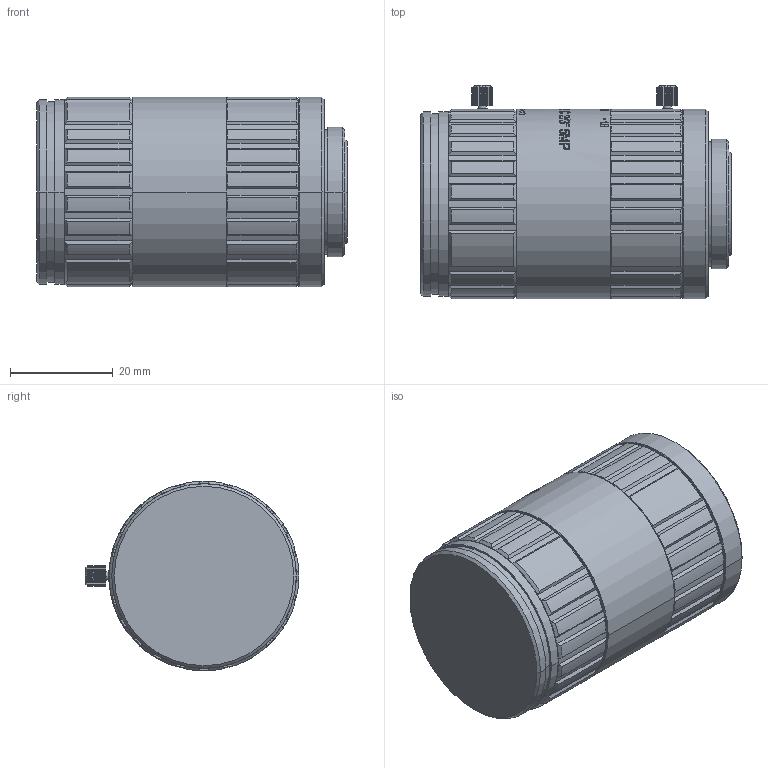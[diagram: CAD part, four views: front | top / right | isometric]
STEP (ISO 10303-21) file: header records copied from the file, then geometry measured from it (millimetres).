
FILE_DESCRIPTION((''),'2;1');
FILE_NAME('OPT-C1618-5M-V3_0','2019-09-12T10:41:28',('dcsongs'),(''),'CREO PARAMETRIC BY PTC INC, 2018400','CREO PARAMETRIC BY PTC INC, 2018400','');
FILE_SCHEMA(('AUTOMOTIVE_DESIGN { 1 0 10303 214 1 1 1 1 }'));
Products named in the file (1): OPT-C1618-5M-V3_0
Bounding box: 60.6 x 41.7 x 37 mm (x, y, z)
Volume: 61536.4 mm3; surface area: 10035.9 mm2
Topology: 1 solids, 4 shells, 1238 faces, 3356 edges, 2191 vertices
Faces by surface type: bspline 443, plane 379, cylinder 275, cone 106, extrusion 35
Entity records: 50847 total; most frequent: CARTESIAN_POINT 22794, ORIENTED_EDGE 6712, DIRECTION 4362, EDGE_CURVE 3356, VERTEX_POINT 2190, AXIS2_PLACEMENT_3D 1490, VECTOR 1382, LINE 1347
